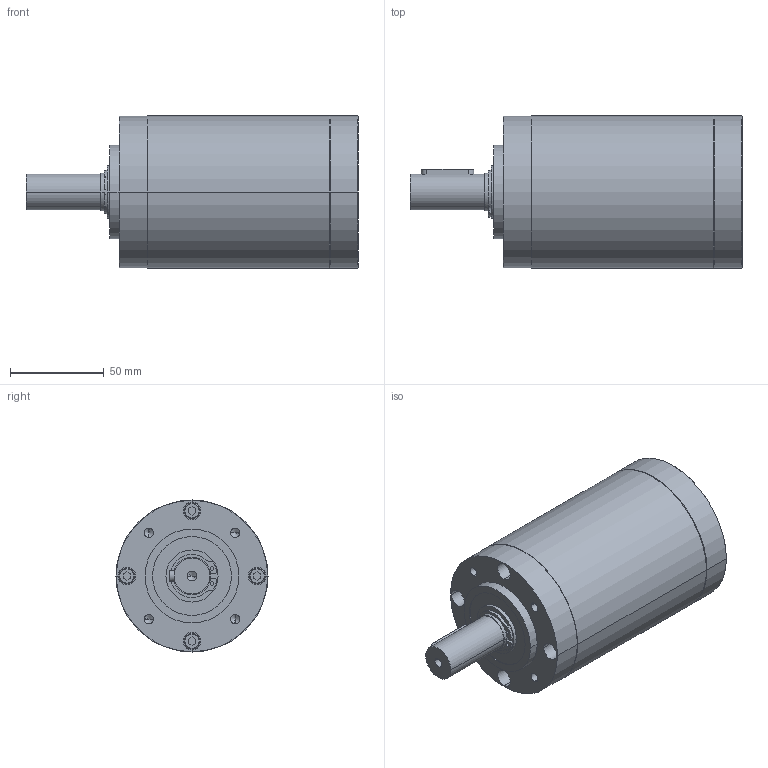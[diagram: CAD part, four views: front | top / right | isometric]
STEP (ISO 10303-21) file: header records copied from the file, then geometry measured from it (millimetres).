
FILE_DESCRIPTION((''),'2;1');
FILE_NAME('GP81-STAGE-3_SW0001','2020-09-09T10:55:08',('mmagvisi'),(''),'CREO PARAMETRIC BY PTC INC, 2019471','CREO PARAMETRIC BY PTC INC, 2019471','');
FILE_SCHEMA(('CONFIG_CONTROL_DESIGN','SHAPE_APPEARANCE_LAYERS_GROUPS'));
Length unit declared in the file: millimetre
Products named in the file (1): GP81-STAGE-3_SW0001
Bounding box: 176.9 x 81 x 81 mm (x, y, z)
Volume: 671951.6 mm3; surface area: 51098.3 mm2
Topology: 1 solids, 1 shells, 131 faces, 301 edges, 187 vertices
Faces by surface type: plane 54, cylinder 53, cone 16, torus 8
Entity records: 4648 total; most frequent: DIRECTION 675, CARTESIAN_POINT 636, ORIENTED_EDGE 582, PRESENTATION_STYLE_ASSIGNMENT 292, STYLED_ITEM 292, CURVE_STYLE 291, EDGE_CURVE 291, AXIS2_PLACEMENT_3D 257
